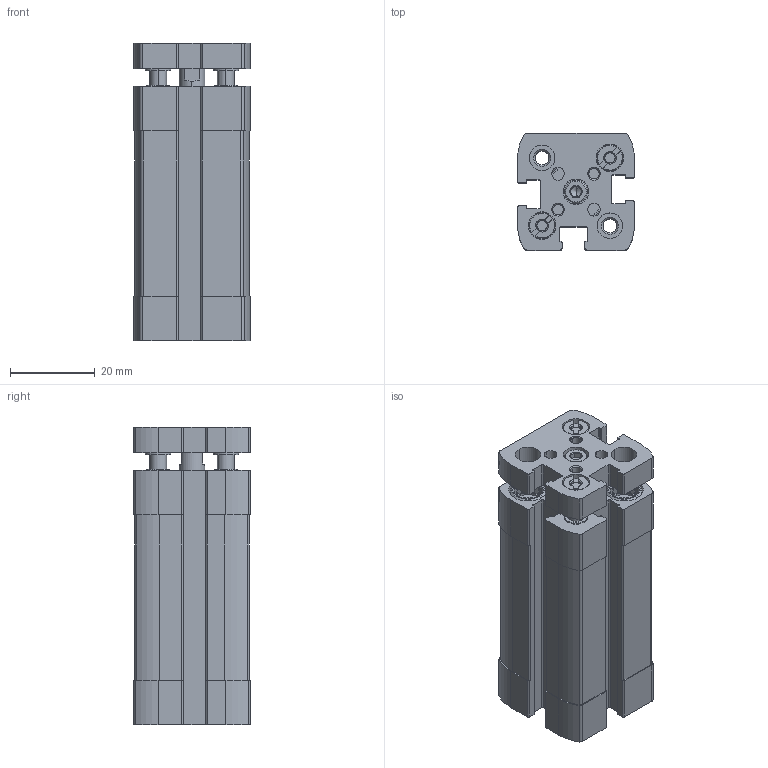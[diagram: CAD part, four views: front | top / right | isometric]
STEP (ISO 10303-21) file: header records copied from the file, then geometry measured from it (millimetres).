
FILE_DESCRIPTION (( 'STEP AP203' ), '1' );
FILE_NAME ('CCNG12-25.STEP', '2017-04-13T14:07:09', ( '' ), ( '' ), 'SwSTEP 2.0', 'SolidWorks 2016', '' );
FILE_SCHEMA (( 'CONFIG_CONTROL_DESIGN' ));
Length unit declared in the file: millimetre
Products named in the file (3): CCNG12-25; CCNG12-25-(Z); CCNG-12-25-(KS)
Assembly tree (2 placements, depth 2):
  CCNG12-25
    CCNG12-25-(Z)
    CCNG-12-25-(KS)
Bounding box: 27.5 x 27.5 x 70.2 mm (x, y, z)
Volume: 35698.3 mm3; surface area: 21245.9 mm2
Topology: 2 solids, 6 shells, 538 faces, 1398 edges, 913 vertices
Faces by surface type: plane 252, cylinder 212, cone 70, bspline 4
Entity records: 17083 total; most frequent: CARTESIAN_POINT 3328, DIRECTION 2864, ORIENTED_EDGE 2792, EDGE_CURVE 1396, AXIS2_PLACEMENT_3D 1061, VERTEX_POINT 913, VECTOR 742, LINE 742
